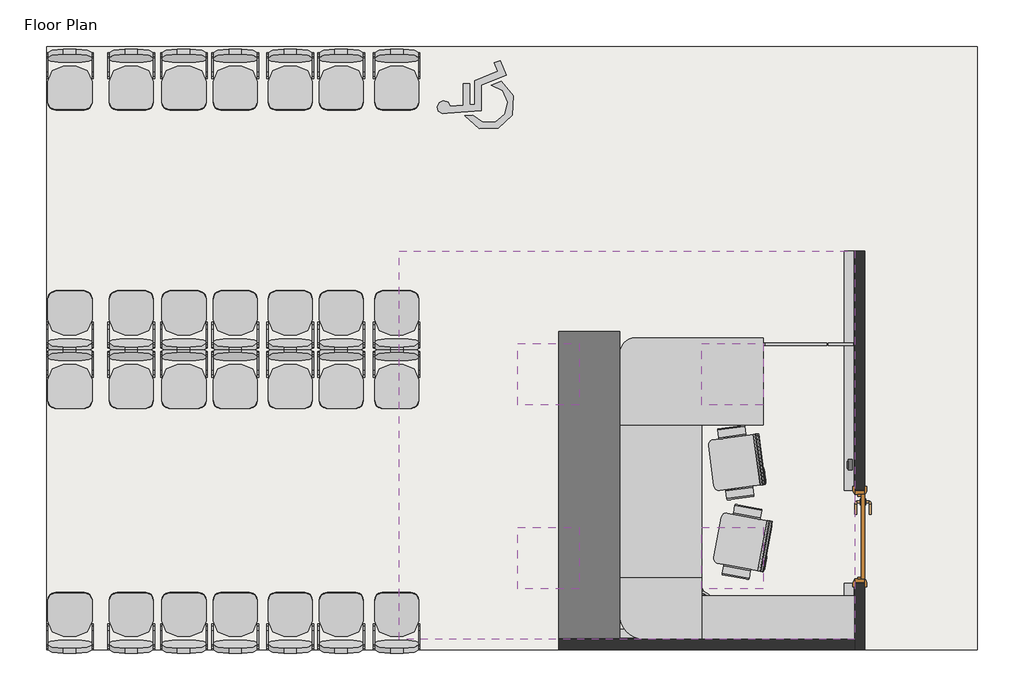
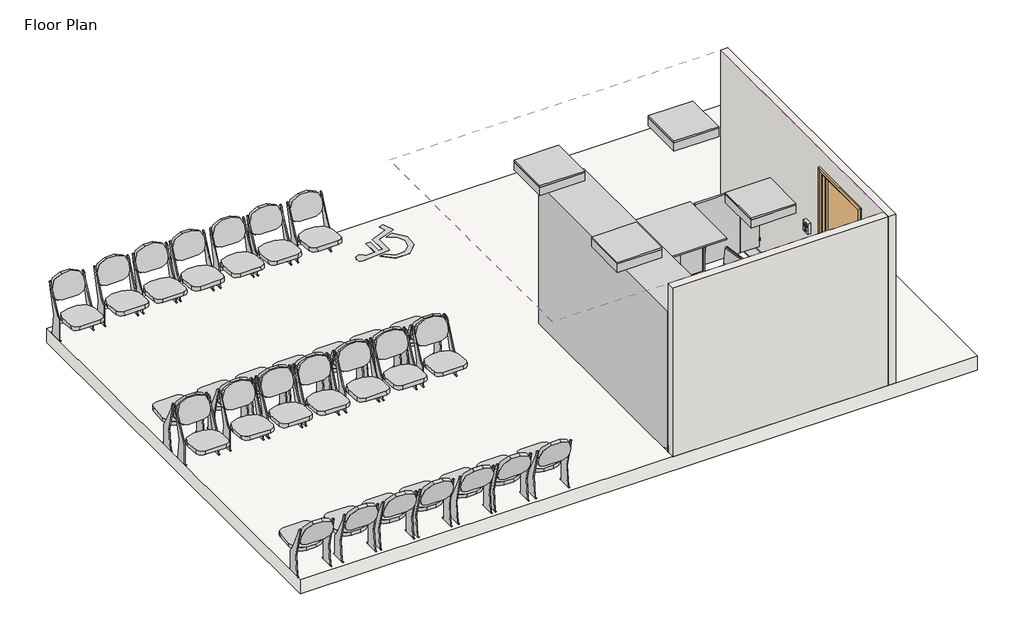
# One storey: 33 furniture elements, 7 proxies, 4 light fixtures, 2 walls, 1 covering, 1 door, 1 slab.
"""IFC4 building model written with IfcOpenShell, lengths in millimetres."""

from ifc_helpers import new_model, si_unit, frame, origin, place, context, project, spatial, polyline, circle_curve, ellipse_curve, outline, extrude, faceted_brep, transform, mapped, element, save
from ifc_brep_helpers import plane_surface, revolved_surface, advanced_brep
from components import generic_models_b4fb940c, generic_models_7e918288, bimhealth_electrical_fire_alarm_v1_type_1_df29756c, parking_wheelchair_symbol_standard_0468f472, type_1_ea418fb4, door_910x2110mm_b2b4f311, furniture_fb8e9059, furniture_1a2447f9, furniture_3911303b, furniture_f5552fc6, furniture_chair_auditorium_457x610x370mm_3d1d9cbc, furniture_chair_auditorium_457x610x370mm_2ec127df, lighting_fixtures_troffer_parabolic_square_600x600mm_2_lamps_e1dca80e

model = new_model("IFC4")

# Units and contexts
model_context = context("Model", 3, world=origin())
ifc_project = project(units=[si_unit("LENGTHUNIT", "METRE", prefix="MILLI")], contexts=[model_context])

# Site, building, storey
site = spatial("IfcSite", under=ifc_project)
building = spatial("IfcBuilding", under=site)
storey = spatial("IfcBuildingStorey", under=building, Name="Floor Plan", Elevation=0.0)

# Proxies
placement = place(None, origin())
element("IfcBuildingElementProxy", 1, Name="Wall Sweeps", at=placement, inside=storey, context=model_context, shape_type="AdvancedBrep", body=[
    advanced_brep(
    [(5450.0, 3705.0, 0.0), (5350.0, 3705.0, 0.0), (5350.0, 3705.0, 10.0), (5440.0, 3705.0, 100.0), (5450.0, 3705.0, 100.0), (5450.0, 1365.0, 0.0), (5450.0, 1365.0, 100.0), (5440.0, 1365.0, 100.0), (5350.0, 1365.0, 10.0), (5350.0, 1365.0, 0.0)],
    [
        (0, 1),
        (1, 2),
        (2, 3, circle_curve(frame((5350.0, 3705.0, 100.0), z_axis=(0.0, -1.0, 0.0), x_axis=(-1.0, 0.0, 0.0)), 90.0)),
        (3, 4),
        (4, 0),
        (5, 6),
        (6, 7),
        (7, 8, circle_curve(frame((5350.0, 1365.0, 100.0), z_axis=(0.0, 1.0, 0.0), x_axis=(-1.0, 0.0, 0.0)), 90.0)),
        (8, 9),
        (9, 5),
        (4, 6),
        (5, 0),
        (3, 7),
        (2, 8),
        (1, 9),
    ],
    [
        plane_surface(frame((5349.5012438, 3705.0, 0.0), z_axis=(0.0, 1.0, 0.0), x_axis=(0.0, 0.0, -1.0))),
        plane_surface(frame((5349.5012438, 1365.0, 0.0), z_axis=(0.0, -1.0, 0.0), x_axis=(0.0, 0.0, -1.0))),
        plane_surface(frame((5450.0, 3705.0, 100.0), z_axis=(1.0, 0.0, 0.0), x_axis=(0.0, -1.0, 0.0))),
        plane_surface(frame((5440.0, 3705.0, 100.0), z_axis=(0.0, 0.0, 1.0), x_axis=(0.0, -1.0, 0.0))),
        revolved_surface(polyline([(5260.0, 1365.0, 100.0), (5260.0, 3705.0, 100.0)]), (5350.0, 3705.0, 100.0), (0.0, -1.0, 0.0)),
        plane_surface(frame((5350.0, 3705.0, 0.0), z_axis=(-1.0, 0.0, 0.0), x_axis=(0.0, -1.0, 0.0))),
        plane_surface(frame((5450.0, 3705.0, 0.0), z_axis=(0.0, 0.0, -1.0), x_axis=(0.0, -1.0, 0.0))),
    ],
    [
        (0, [[1, 2, 3, 4, 5]]),
        (1, [[6, 7, 8, 9, 10]]),
        (2, [[-5, 11, -6, 12]]),
        (3, [[-4, 13, -7, -11]]),
        (4, [[-3, 14, -8, -13]]),
        (5, [[-2, 15, -9, -14]]),
        (6, [[-1, -12, -10, -15]]),
    ],
),
    advanced_brep(
    [(5450.0, 455.0, 0.0), (5350.0, 455.0, 0.0), (5350.0, 455.0, 10.0), (5440.0, 455.0, 100.0), (5450.0, 455.0, 100.0), (5450.0, -95.0, 0.0), (5450.0, -95.0, 100.0), (5440.0, -85.0, 100.0), (5350.0, 5.0, 10.0), (5350.0, 5.0, 0.0)],
    [
        (0, 1),
        (1, 2),
        (2, 3, circle_curve(frame((5350.0, 455.0, 100.0), z_axis=(0.0, -1.0, 0.0), x_axis=(-1.0, 0.0, 0.0)), 90.0)),
        (3, 4),
        (4, 0),
        (5, 6),
        (6, 7),
        (7, 8, ellipse_curve(frame((5350.0, 5.0, 100.0), z_axis=(0.7071067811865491, 0.707106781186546, 0.0), x_axis=(0.707106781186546, -0.707106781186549, 0.0)), 127.2792206, 90.0)),
        (8, 9),
        (9, 5),
        (0, 5),
        (9, 1),
        (8, 2),
        (7, 3),
        (6, 4),
    ],
    [
        plane_surface(frame((5349.5012438, 455.0, 0.0), z_axis=(0.0, 1.0, 0.0), x_axis=(0.0, 0.0, -1.0))),
        plane_surface(frame((5450.0, -95.0, 304.8), z_axis=(-0.7071067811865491, -0.707106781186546, 0.0), x_axis=(-0.707106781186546, 0.7071067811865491, 0.0))),
        plane_surface(frame((5450.0, 455.0, 0.0), z_axis=(0.0, 0.0, -1.0), x_axis=(0.0, -1.0, 0.0))),
        plane_surface(frame((5350.0, 455.0, 0.0), z_axis=(-1.0, 0.0, 0.0), x_axis=(0.0, -1.0, 0.0))),
        revolved_surface(polyline([(5260.0, -85.0, 100.0), (5260.0, 455.0, 100.0)]), (5350.0, 455.0, 100.0), (0.0, -1.0, 0.0)),
        plane_surface(frame((5440.0, 455.0, 100.0), z_axis=(0.0, 0.0, 1.0), x_axis=(0.0, -1.0, 0.0))),
        plane_surface(frame((5450.0, 455.0, 100.0), z_axis=(1.0, 0.0, 0.0), x_axis=(0.0, -1.0, 0.0))),
    ],
    [
        (0, [[1, 2, 3, 4, 5]]),
        (1, [[6, 7, 8, 9, 10]]),
        (2, [[-1, 11, -10, 12]]),
        (3, [[-2, -12, -9, 13]]),
        (4, [[-3, -13, -8, 14]]),
        (5, [[-4, -14, -7, 15]]),
        (6, [[-5, -15, -6, -11]]),
    ],
),
])
element("IfcBuildingElementProxy", 2, Name="Wall Sweeps", at=placement, inside=storey, context=model_context, shape_type="AdvancedBrep", body=[
    advanced_brep(
    [(5450.0, -95.0, 0.0), (5350.0, 5.0, 0.0), (5350.0, 5.0, 10.0), (5440.0, -85.0, 100.0), (5450.0, -95.0, 100.0), (2555.0, -95.0, 0.0), (2555.0, -95.0, 100.0), (2555.0, -85.0, 100.0), (2555.0, 5.0, 10.0), (2555.0, 5.0, 0.0)],
    [
        (0, 1),
        (1, 2),
        (2, 3, ellipse_curve(frame((5350.0, 5.0, 100.0), z_axis=(-0.7071067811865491, -0.707106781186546, 0.0), x_axis=(-0.7071067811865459, 0.7071067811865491, 0.0)), 127.2792206, 90.0)),
        (3, 4),
        (4, 0),
        (5, 6),
        (6, 7),
        (7, 8, circle_curve(frame((2555.0, 5.0, 100.0), z_axis=(1.0, 0.0, 0.0), x_axis=(0.0, 1.0, 0.0)), 90.0)),
        (8, 9),
        (9, 5),
        (4, 6),
        (5, 0),
        (3, 7),
        (2, 8),
        (1, 9),
    ],
    [
        plane_surface(frame((5450.0, -95.0, 304.8), z_axis=(0.7071067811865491, 0.707106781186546, 0.0), x_axis=(-0.707106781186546, 0.7071067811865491, 0.0))),
        plane_surface(frame((2555.0, -95.0, -100.4987562), z_axis=(-1.0, 0.0, 0.0), x_axis=(0.0, -1.0, 0.0))),
        plane_surface(frame((5450.0, -95.0, 100.0), z_axis=(0.0, -1.0, 0.0), x_axis=(-1.0, 0.0, 0.0))),
        plane_surface(frame((5440.0, -85.0, 100.0), z_axis=(0.0, 0.0, 1.0), x_axis=(-1.0, 0.0, 0.0))),
        revolved_surface(polyline([(2555.0, 95.0, 100.0), (5440.0, 95.0, 100.0)]), (5450.0, 5.0, 100.0), (-1.0, 0.0, 0.0)),
        plane_surface(frame((5350.0, 5.0, 0.0), z_axis=(0.0, 1.0, 0.0), x_axis=(-1.0, 0.0, 0.0))),
        plane_surface(frame((5450.0, -95.0, 0.0), z_axis=(0.0, 0.0, -1.0), x_axis=(-1.0, 0.0, 0.0))),
    ],
    [
        (0, [[1, 2, 3, 4, 5]]),
        (1, [[6, 7, 8, 9, 10]]),
        (2, [[-5, 11, -6, 12]]),
        (3, [[-4, 13, -7, -11]]),
        (4, [[-3, 14, -8, -13]]),
        (5, [[-2, 15, -9, -14]]),
        (6, [[-1, -12, -10, -15]]),
    ],
),
])
generic_models_shape = generic_models_b4fb940c(model_context)
element("IfcBuildingElementProxy", 3, Name="BIMHealth-400x600mm_Mobile_Under_Counter_Drawer-LOD2A-v1 : BIMHealth-400x600mm_Mobile_Under_Counter_Drawer-LOD2A-v1", ObjectType="BIMHealth-400x600mm_Mobile_Under_Counter_Drawer-LOD2A-v1 : BIMHealth-400x600mm_Mobile_Under_Counter_Drawer-LOD2A-v1", at=placement, inside=storey, context=model_context, shape_type="MappedRepresentation", body=[
    mapped(generic_models_shape, transform((3320.0, 1623.0, 40.0), x_axis=(0.0, 1.0, 0.0), y_axis=(-1.0, 0.0, 0.0), z_axis=(0.0, 0.0, 1.0))),
])
generic_models_2_shape = generic_models_7e918288(model_context)
element("IfcBuildingElementProxy", 4, Name="BIMHealth-Nurses_Station_Standing_Zone_Clearance-LOD2A-v1 : BIMHealth-Nurses_Station_Standing_Zone_Clearance-LOD2A-v1", ObjectType="BIMHealth-Nurses_Station_Standing_Zone_Clearance-LOD2A-v1 : BIMHealth-Nurses_Station_Standing_Zone_Clearance-LOD2A-v1", at=placement, inside=storey, context=model_context, shape_type="MappedRepresentation", body=[
    mapped(generic_models_2_shape, transform((2855.0, 1415.0, 0.0), x_axis=(1.0, 0.0, 0.0), y_axis=(0.0, 1.0, 0.0), z_axis=(0.0, 0.0, 1.0))),
])
bimhealth_electrical_fire_alarm_v1_type_1_shape = bimhealth_electrical_fire_alarm_v1_type_1_df29756c(model_context)
element("IfcBuildingElementProxy", 5, Name="BIMHealth-Electrical-Fire_Alarm-v1 : Type 1", ObjectType="BIMHealth-Electrical-Fire_Alarm-v1 : Type 1", at=placement, inside=storey, context=model_context, shape_type="MappedRepresentation", body=[
    mapped(bimhealth_electrical_fire_alarm_v1_type_1_shape, transform((5500.0, 1438.4669803, -100.0), x_axis=(0.0, 1.0, 0.0), y_axis=(-1.0, 0.0, 0.0), z_axis=(0.0, 0.0, 1.0))),
])
parking_wheelchair_symbol_standard_shape = parking_wheelchair_symbol_standard_0468f472(model_context)
element("IfcBuildingElementProxy", 6, Name="Parking_Wheelchair_Symbol : Standard", ObjectType="Parking_Wheelchair_Symbol : Standard", at=placement, inside=storey, context=model_context, shape_type="MappedRepresentation", body=[
    mapped(parking_wheelchair_symbol_standard_shape, transform((1755.0, 5105.0, 0.0), x_axis=(0.0, 1.0, 0.0), y_axis=(-1.0, 0.0, 0.0), z_axis=(0.0, 0.0, 1.0))),
])
type_1_shape = type_1_ea418fb4(model_context)
element("IfcBuildingElementProxy", 7, Name="BIMHealth-Reception_Shelving-LOD2A-v1 : Type 1", ObjectType="BIMHealth-Reception_Shelving-LOD2A-v1 : Type 1", at=placement, inside=storey, context=model_context, shape_type="MappedRepresentation", body=[
    mapped(type_1_shape, transform((4577.5, -145.0, 0.0), x_axis=(1.0, 0.0, 0.0), y_axis=(0.0, 1.0, 0.0), z_axis=(0.0, 0.0, 1.0))),
])

# Covering
element("IfcCovering", 8, ObjectType="BIMHealth - Generic Ceiling", at=placement, inside=storey, context=model_context, shape_type="SweptSolid", body=[
    extrude(outline(polyline([(5450.0, 3705.0), (5450.0, -95.0), (1000.0, -95.0), (1000.0, 3705.0), (5450.0, 3705.0)]), holes=[polyline([(2755.0, 1000.0), (2155.0, 1000.0), (2155.0, 400.0), (2755.0, 400.0), (2755.0, 1000.0)]), polyline([(4555.0, 1000.0), (3955.0, 1000.0), (3955.0, 400.0), (4555.0, 400.0), (4555.0, 1000.0)]), polyline([(2755.0, 2800.0), (2155.0, 2800.0), (2155.0, 2200.0), (2755.0, 2200.0), (2755.0, 2800.0)]), polyline([(4555.0, 2800.0), (3955.0, 2800.0), (3955.0, 2200.0), (4555.0, 2200.0), (4555.0, 2800.0)])]), frame((0.0, 0.0, 2400.0), z_axis=(0.0, 0.0, 1.0), x_axis=(1.0, 0.0, 0.0)), (0.0, 0.0, 1.0), 52.0),
])

# Door
door_910x2110mm_shape = door_910x2110mm_b2b4f311(model_context)
element("IfcDoor", 9, ObjectType="BIMHealth-Single_Door_841mm_Wide-LOD2A-v1 : 910x2110mm", at=placement, inside=storey, context=model_context, shape_type="MappedRepresentation", body=[
    mapped(door_910x2110mm_shape, transform((5500.0, 910.0, 0.0), x_axis=(0.0, -1.0, 0.0), y_axis=(1.0, 0.0, 0.0), z_axis=(0.0, 0.0, 1.0))),
])

# Furniture
furniture_shape = furniture_fb8e9059(model_context)
element("IfcFurniture", 10, ObjectType="BIMHealth-Chair_Consultant-LOD2A-v1 : BIMHealth-Chair_Consultant-LOD2A-v1", at=placement, inside=storey, context=model_context, shape_type="MappedRepresentation", body=[
    mapped(furniture_shape, transform((4510.6545716, 1916.707278, 0.0), x_axis=(0.1313917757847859, -0.9913305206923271, 0.0), y_axis=(0.9913305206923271, 0.1313917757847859, 0.0), z_axis=(0.0, 0.0, 1.0))),
])
element("IfcFurniture", 11, ObjectType="BIMHealth-Chair_Consultant-LOD2A-v1 : BIMHealth-Chair_Consultant-LOD2A-v1", at=placement, inside=storey, context=model_context, shape_type="MappedRepresentation", body=[
    mapped(furniture_shape, transform((4647.1666061, 1057.5245573, 0.0), x_axis=(-0.18267011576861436, -0.9831742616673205, 0.0), y_axis=(0.9831742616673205, -0.18267011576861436, 0.0), z_axis=(0.0, 0.0, 1.0))),
])
furniture_2_shape = furniture_1a2447f9(model_context)
element("IfcFurniture", 12, ObjectType="BIMHealth-Trolley_Notes_750x550-LOD2A-v1 : BIMHealth-Trolley_Notes_750x550-LOD2A-v1", at=placement, inside=storey, context=model_context, shape_type="MappedRepresentation", body=[
    mapped(furniture_2_shape, transform((3975.676857, 2444.4127232, -60.0), x_axis=(-1.0, 0.0, 0.0), y_axis=(0.0, -1.0, 0.0), z_axis=(0.0, 0.0, 1.0))),
])
furniture_3_shape = furniture_3911303b(model_context)
element("IfcFurniture", 13, ObjectType="BIMHealth-Trolley_Notes_420x600-LOD2A-v1 : BIMHealth-Trolley_Notes_420x600-LOD2A-v1", at=placement, inside=storey, context=model_context, shape_type="MappedRepresentation", body=[
    mapped(furniture_3_shape, transform((3540.0, 178.0, 0.0), x_axis=(-1.0, 0.0, 0.0), y_axis=(0.0, -1.0, 0.0), z_axis=(0.0, 0.0, 1.0))),
])
furniture_4_shape = furniture_f5552fc6(model_context)
element("IfcFurniture", 14, ObjectType="BIMHealth-Desk_Reception-LOD2A-v1 : BIMHealth-Desk_Reception-LOD2A-v1", at=placement, inside=storey, context=model_context, shape_type="MappedRepresentation", body=[
    mapped(furniture_4_shape, transform((3555.0, 1355.0, 0.0), x_axis=(1.0, 0.0, 0.0), y_axis=(0.0, 1.0, 0.0), z_axis=(0.0, 0.0, 1.0))),
])
furniture_chair_auditorium_457x610x370mm_shape = furniture_chair_auditorium_457x610x370mm_3d1d9cbc(model_context)
element("IfcFurniture", 15, ObjectType="Furniture_Chair_Auditorium : 457x610x370mm", at=placement, inside=storey, context=model_context, shape_type="MappedRepresentation", body=[
    mapped(furniture_chair_auditorium_457x610x370mm_shape, transform((-1782.1278689, -130.8754098, 0.0), x_axis=(1.0, 0.0, 0.0), y_axis=(0.0, 1.0, 0.0), z_axis=(0.0, 0.0, 1.0))),
])
element("IfcFurniture", 16, ObjectType="Furniture_Chair_Auditorium : 457x610x370mm", at=placement, inside=storey, context=model_context, shape_type="MappedRepresentation", body=[
    mapped(furniture_chair_auditorium_457x610x370mm_shape, transform((-1267.1032075, -130.8754098, 0.0), x_axis=(1.0, 0.0, 0.0), y_axis=(0.0, 1.0, 0.0), z_axis=(0.0, 0.0, 1.0))),
])
element("IfcFurniture", 17, ObjectType="Furniture_Chair_Auditorium : 457x610x370mm", at=placement, inside=storey, context=model_context, shape_type="MappedRepresentation", body=[
    mapped(furniture_chair_auditorium_457x610x370mm_shape, transform((-767.1032075, -130.8754098, 0.0), x_axis=(1.0, 0.0, 0.0), y_axis=(0.0, 1.0, 0.0), z_axis=(0.0, 0.0, 1.0))),
])
element("IfcFurniture", 18, ObjectType="Furniture_Chair_Auditorium : 457x610x370mm", at=placement, inside=storey, context=model_context, shape_type="MappedRepresentation", body=[
    mapped(furniture_chair_auditorium_457x610x370mm_shape, transform((-2382.1278689, -130.8754098, 0.0), x_axis=(1.0, 0.0, 0.0), y_axis=(0.0, 1.0, 0.0), z_axis=(0.0, 0.0, 1.0))),
])
element("IfcFurniture", 19, ObjectType="Furniture_Chair_Auditorium : 457x610x370mm", at=placement, inside=storey, context=model_context, shape_type="MappedRepresentation", body=[
    mapped(furniture_chair_auditorium_457x610x370mm_shape, transform((271.2913349, -130.8754098, 0.0), x_axis=(1.0, 0.0, 0.0), y_axis=(0.0, 1.0, 0.0), z_axis=(0.0, 0.0, 1.0))),
])
element("IfcFurniture", 20, ObjectType="Furniture_Chair_Auditorium : 457x610x370mm", at=placement, inside=storey, context=model_context, shape_type="MappedRepresentation", body=[
    mapped(furniture_chair_auditorium_457x610x370mm_shape, transform((-228.7086651, -130.8754098, 0.0), x_axis=(1.0, 0.0, 0.0), y_axis=(0.0, 1.0, 0.0), z_axis=(0.0, 0.0, 1.0))),
])
element("IfcFurniture", 21, ObjectType="Furniture_Chair_Auditorium : 457x610x370mm", at=placement, inside=storey, context=model_context, shape_type="MappedRepresentation", body=[
    mapped(furniture_chair_auditorium_457x610x370mm_shape, transform((811.2913349, -130.8754098, 0.0), x_axis=(1.0, 0.0, 0.0), y_axis=(0.0, 1.0, 0.0), z_axis=(0.0, 0.0, 1.0))),
])
element("IfcFurniture", 22, ObjectType="Furniture_Chair_Auditorium : 457x610x370mm", at=placement, inside=storey, context=model_context, shape_type="MappedRepresentation", body=[
    mapped(furniture_chair_auditorium_457x610x370mm_shape, transform((-1782.1278689, 2818.1404264, 0.0), x_axis=(1.0, 0.0, 0.0), y_axis=(0.0, 1.0, 0.0), z_axis=(0.0, 0.0, 1.0))),
])
element("IfcFurniture", 23, ObjectType="Furniture_Chair_Auditorium : 457x610x370mm", at=placement, inside=storey, context=model_context, shape_type="MappedRepresentation", body=[
    mapped(furniture_chair_auditorium_457x610x370mm_shape, transform((-1267.1032075, 2818.1404264, 0.0), x_axis=(1.0, 0.0, 0.0), y_axis=(0.0, 1.0, 0.0), z_axis=(0.0, 0.0, 1.0))),
])
element("IfcFurniture", 24, ObjectType="Furniture_Chair_Auditorium : 457x610x370mm", at=placement, inside=storey, context=model_context, shape_type="MappedRepresentation", body=[
    mapped(furniture_chair_auditorium_457x610x370mm_shape, transform((-767.1032075, 2818.1404264, 0.0), x_axis=(1.0, 0.0, 0.0), y_axis=(0.0, 1.0, 0.0), z_axis=(0.0, 0.0, 1.0))),
])
element("IfcFurniture", 25, ObjectType="Furniture_Chair_Auditorium : 457x610x370mm", at=placement, inside=storey, context=model_context, shape_type="MappedRepresentation", body=[
    mapped(furniture_chair_auditorium_457x610x370mm_shape, transform((-2382.1278689, 2818.1404264, 0.0), x_axis=(1.0, 0.0, 0.0), y_axis=(0.0, 1.0, 0.0), z_axis=(0.0, 0.0, 1.0))),
])
element("IfcFurniture", 26, ObjectType="Furniture_Chair_Auditorium : 457x610x370mm", at=placement, inside=storey, context=model_context, shape_type="MappedRepresentation", body=[
    mapped(furniture_chair_auditorium_457x610x370mm_shape, transform((271.2913349, 2818.1404264, 0.0), x_axis=(1.0, 0.0, 0.0), y_axis=(0.0, 1.0, 0.0), z_axis=(0.0, 0.0, 1.0))),
])
element("IfcFurniture", 27, ObjectType="Furniture_Chair_Auditorium : 457x610x370mm", at=placement, inside=storey, context=model_context, shape_type="MappedRepresentation", body=[
    mapped(furniture_chair_auditorium_457x610x370mm_shape, transform((-228.7086651, 2818.1404264, 0.0), x_axis=(1.0, 0.0, 0.0), y_axis=(0.0, 1.0, 0.0), z_axis=(0.0, 0.0, 1.0))),
])
element("IfcFurniture", 28, ObjectType="Furniture_Chair_Auditorium : 457x610x370mm", at=placement, inside=storey, context=model_context, shape_type="MappedRepresentation", body=[
    mapped(furniture_chair_auditorium_457x610x370mm_shape, transform((811.2913349, 2818.1404264, 0.0), x_axis=(1.0, 0.0, 0.0), y_axis=(0.0, 1.0, 0.0), z_axis=(0.0, 0.0, 1.0))),
])
furniture_chair_auditorium_457x610x370mm_2_shape = furniture_chair_auditorium_457x610x370mm_2ec127df(model_context)
element("IfcFurniture", 29, ObjectType="Furniture_Chair_Auditorium : 457x610x370mm", at=placement, inside=storey, context=model_context, shape_type="MappedRepresentation", body=[
    mapped(furniture_chair_auditorium_457x610x370mm_2_shape, transform((-1782.1278689, 5578.5697446, 0.0), x_axis=(1.0, 0.0, 0.0), y_axis=(0.0, 1.0, 0.0), z_axis=(0.0, 0.0, 1.0))),
])
element("IfcFurniture", 30, ObjectType="Furniture_Chair_Auditorium : 457x610x370mm", at=placement, inside=storey, context=model_context, shape_type="MappedRepresentation", body=[
    mapped(furniture_chair_auditorium_457x610x370mm_2_shape, transform((-1267.1032075, 5578.5697446, 0.0), x_axis=(1.0, 0.0, 0.0), y_axis=(0.0, 1.0, 0.0), z_axis=(0.0, 0.0, 1.0))),
])
element("IfcFurniture", 31, ObjectType="Furniture_Chair_Auditorium : 457x610x370mm", at=placement, inside=storey, context=model_context, shape_type="MappedRepresentation", body=[
    mapped(furniture_chair_auditorium_457x610x370mm_2_shape, transform((-767.1032075, 5578.5697446, 0.0), x_axis=(1.0, 0.0, 0.0), y_axis=(0.0, 1.0, 0.0), z_axis=(0.0, 0.0, 1.0))),
])
element("IfcFurniture", 32, ObjectType="Furniture_Chair_Auditorium : 457x610x370mm", at=placement, inside=storey, context=model_context, shape_type="MappedRepresentation", body=[
    mapped(furniture_chair_auditorium_457x610x370mm_2_shape, transform((-2382.1278689, 5578.5697446, 0.0), x_axis=(1.0, 0.0, 0.0), y_axis=(0.0, 1.0, 0.0), z_axis=(0.0, 0.0, 1.0))),
])
element("IfcFurniture", 33, ObjectType="Furniture_Chair_Auditorium : 457x610x370mm", at=placement, inside=storey, context=model_context, shape_type="MappedRepresentation", body=[
    mapped(furniture_chair_auditorium_457x610x370mm_2_shape, transform((271.2913349, 5578.5697446, 0.0), x_axis=(1.0, 0.0, 0.0), y_axis=(0.0, 1.0, 0.0), z_axis=(0.0, 0.0, 1.0))),
])
element("IfcFurniture", 34, ObjectType="Furniture_Chair_Auditorium : 457x610x370mm", at=placement, inside=storey, context=model_context, shape_type="MappedRepresentation", body=[
    mapped(furniture_chair_auditorium_457x610x370mm_2_shape, transform((-228.7086651, 5578.5697446, 0.0), x_axis=(1.0, 0.0, 0.0), y_axis=(0.0, 1.0, 0.0), z_axis=(0.0, 0.0, 1.0))),
])
element("IfcFurniture", 35, ObjectType="Furniture_Chair_Auditorium : 457x610x370mm", at=placement, inside=storey, context=model_context, shape_type="MappedRepresentation", body=[
    mapped(furniture_chair_auditorium_457x610x370mm_2_shape, transform((811.2913349, 5578.5697446, 0.0), x_axis=(1.0, 0.0, 0.0), y_axis=(0.0, 1.0, 0.0), z_axis=(0.0, 0.0, 1.0))),
])
element("IfcFurniture", 36, ObjectType="Furniture_Chair_Auditorium : 457x610x370mm", at=placement, inside=storey, context=model_context, shape_type="MappedRepresentation", body=[
    mapped(furniture_chair_auditorium_457x610x370mm_2_shape, transform((-1782.1278689, 2659.5162774, 0.0), x_axis=(1.0, 0.0, 0.0), y_axis=(0.0, 1.0, 0.0), z_axis=(0.0, 0.0, 1.0))),
])
element("IfcFurniture", 37, ObjectType="Furniture_Chair_Auditorium : 457x610x370mm", at=placement, inside=storey, context=model_context, shape_type="MappedRepresentation", body=[
    mapped(furniture_chair_auditorium_457x610x370mm_2_shape, transform((-1267.1032075, 2659.5162774, 0.0), x_axis=(1.0, 0.0, 0.0), y_axis=(0.0, 1.0, 0.0), z_axis=(0.0, 0.0, 1.0))),
])
element("IfcFurniture", 38, ObjectType="Furniture_Chair_Auditorium : 457x610x370mm", at=placement, inside=storey, context=model_context, shape_type="MappedRepresentation", body=[
    mapped(furniture_chair_auditorium_457x610x370mm_2_shape, transform((-767.1032075, 2659.5162774, 0.0), x_axis=(1.0, 0.0, 0.0), y_axis=(0.0, 1.0, 0.0), z_axis=(0.0, 0.0, 1.0))),
])
element("IfcFurniture", 39, ObjectType="Furniture_Chair_Auditorium : 457x610x370mm", at=placement, inside=storey, context=model_context, shape_type="MappedRepresentation", body=[
    mapped(furniture_chair_auditorium_457x610x370mm_2_shape, transform((-2382.1278689, 2659.5162774, 0.0), x_axis=(1.0, 0.0, 0.0), y_axis=(0.0, 1.0, 0.0), z_axis=(0.0, 0.0, 1.0))),
])
element("IfcFurniture", 40, ObjectType="Furniture_Chair_Auditorium : 457x610x370mm", at=placement, inside=storey, context=model_context, shape_type="MappedRepresentation", body=[
    mapped(furniture_chair_auditorium_457x610x370mm_2_shape, transform((271.2913349, 2659.5162774, 0.0), x_axis=(1.0, 0.0, 0.0), y_axis=(0.0, 1.0, 0.0), z_axis=(0.0, 0.0, 1.0))),
])
element("IfcFurniture", 41, ObjectType="Furniture_Chair_Auditorium : 457x610x370mm", at=placement, inside=storey, context=model_context, shape_type="MappedRepresentation", body=[
    mapped(furniture_chair_auditorium_457x610x370mm_2_shape, transform((-228.7086651, 2659.5162774, 0.0), x_axis=(1.0, 0.0, 0.0), y_axis=(0.0, 1.0, 0.0), z_axis=(0.0, 0.0, 1.0))),
])
element("IfcFurniture", 42, ObjectType="Furniture_Chair_Auditorium : 457x610x370mm", at=placement, inside=storey, context=model_context, shape_type="MappedRepresentation", body=[
    mapped(furniture_chair_auditorium_457x610x370mm_2_shape, transform((811.2913349, 2659.5162774, 0.0), x_axis=(1.0, 0.0, 0.0), y_axis=(0.0, 1.0, 0.0), z_axis=(0.0, 0.0, 1.0))),
])

# Light fixtures
lighting_fixtures_troffer_parabolic_square_600x600mm_2_lamps_shape = lighting_fixtures_troffer_parabolic_square_600x600mm_2_lamps_e1dca80e(model_context)
element("IfcLightFixture", 43, ObjectType="Lighting_Fixtures_Troffer_Parabolic_Square : 600x600mm-2_Lamps", at=placement, inside=storey, context=model_context, shape_type="MappedRepresentation", body=[
    mapped(lighting_fixtures_troffer_parabolic_square_600x600mm_2_lamps_shape, transform((2478.5035016, 754.6659321, -38.4), x_axis=(1.0, 0.0, 0.0), y_axis=(0.0, 1.0, 0.0), z_axis=(0.0, 0.0, 1.0))),
])
element("IfcLightFixture", 44, ObjectType="Lighting_Fixtures_Troffer_Parabolic_Square : 600x600mm-2_Lamps", at=placement, inside=storey, context=model_context, shape_type="MappedRepresentation", body=[
    mapped(lighting_fixtures_troffer_parabolic_square_600x600mm_2_lamps_shape, transform((4278.5035016, 754.6659321, -38.4), x_axis=(1.0, 0.0, 0.0), y_axis=(0.0, 1.0, 0.0), z_axis=(0.0, 0.0, 1.0))),
])
element("IfcLightFixture", 45, ObjectType="Lighting_Fixtures_Troffer_Parabolic_Square : 600x600mm-2_Lamps", at=placement, inside=storey, context=model_context, shape_type="MappedRepresentation", body=[
    mapped(lighting_fixtures_troffer_parabolic_square_600x600mm_2_lamps_shape, transform((2478.5035016, 2554.6659321, -38.4), x_axis=(1.0, 0.0, 0.0), y_axis=(0.0, 1.0, 0.0), z_axis=(0.0, 0.0, 1.0))),
])
element("IfcLightFixture", 46, ObjectType="Lighting_Fixtures_Troffer_Parabolic_Square : 600x600mm-2_Lamps", at=placement, inside=storey, context=model_context, shape_type="MappedRepresentation", body=[
    mapped(lighting_fixtures_troffer_parabolic_square_600x600mm_2_lamps_shape, transform((4278.5035016, 2554.6659321, -38.4), x_axis=(1.0, 0.0, 0.0), y_axis=(0.0, 1.0, 0.0), z_axis=(0.0, 0.0, 1.0))),
])

# Slab
element("IfcSlab", 47, ObjectType="BIMHealth - Generic Floor", at=placement, inside=storey, context=model_context, shape_type="SweptSolid", body=[
    extrude(outline(polyline([(-2450.0, 5705.0), (6650.0, 5705.0), (6650.0, -195.0), (-2450.0, -195.0), (-2450.0, 5705.0)])), frame((0.0, 0.0, -200.0), z_axis=(0.0, 0.0, 1.0), x_axis=(1.0, 0.0, 0.0)), (0.0, 0.0, 1.0), 200.0),
])

# Walls
element("IfcWall", 48, ObjectType="BIMHealth - Generic Wall", at=placement, inside=storey, context=model_context, shape_type="Brep", body=[
    faceted_brep([(5450.0, -195.0, 2400.0), (5450.0, -95.0, 2400.0), (5450.0, 3705.0, 2400.0), (5450.0, 3705.0, 100.0), (5450.0, 3705.0, 0.0), (5450.0, 1365.0, 0.0), (5450.0, 1365.0, 100.0), (5450.0, 1365.0, 2110.0), (5450.0, 455.0, 2110.0), (5450.0, 455.0, 100.0), (5450.0, 455.0, 0.0), (5450.0, -95.0, 0.0), (5450.0, -195.0, 0.0), (5550.0, 3705.0, 2400.0), (5550.0, -195.0, 2400.0), (5550.0, -195.0, 0.0), (5550.0, 455.0, 0.0), (5550.0, 455.0, 2110.0), (5550.0, 1365.0, 2110.0), (5550.0, 1365.0, 0.0), (5550.0, 3705.0, 0.0)], [[[0, 1, 2, 3, 4, 5, 6, 7, 8, 9, 10, 11, 12]], [[13, 14, 15, 16, 17, 18, 19, 20]], [[4, 20, 19, 5]], [[15, 12, 11, 10, 16]], [[2, 1, 0, 14, 13]], [[4, 3, 2, 13, 20]], [[0, 12, 15, 14]], [[8, 17, 16, 10, 9]], [[17, 8, 7, 18]], [[18, 7, 6, 5, 19]]]),
])
element("IfcWall", 49, ObjectType="BIMHealth - Generic Wall", at=placement, inside=storey, context=model_context, shape_type="Brep", body=[
    faceted_brep([(5450.0, -95.0, 0.0), (2555.0, -95.0, 0.0), (2555.0, -95.0, 100.0), (2555.0, -95.0, 2400.0), (5450.0, -95.0, 2400.0), (5450.0, -195.0, 0.0), (5450.0, -195.0, 2400.0), (2555.0, -195.0, 2400.0), (2555.0, -195.0, 0.0)], [[[0, 1, 2, 3, 4]], [[5, 6, 7, 8]], [[1, 0, 5, 8]], [[3, 2, 1, 8, 7]], [[4, 3, 7, 6]], [[0, 4, 6, 5]]]),
])

save(model, "model.ifc")
